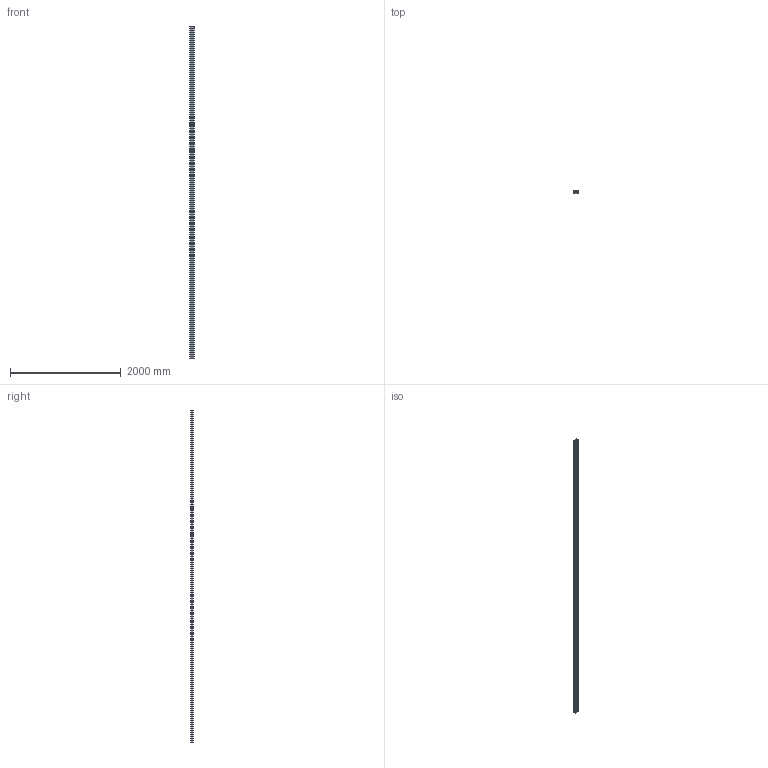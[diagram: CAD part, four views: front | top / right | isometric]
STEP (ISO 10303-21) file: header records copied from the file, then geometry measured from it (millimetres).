
FILE_DESCRIPTION (( 'STEP AP214' ), '1' );
FILE_NAME ('45x90 (Heavy) 100mm.STEP', '2017-08-06T21:32:59', ( 'Ahmed' ), ( '' ), 'SwSTEP 2.0', 'SolidWorks 2016', '' );
FILE_SCHEMA (( 'AUTOMOTIVE_DESIGN' ));
Length unit declared in the file: millimetre
Products named in the file (2): 45x90 (Heavy) 100mm
Bounding box: 90 x 45 x 6000 mm (x, y, z)
Volume: 7687235 mm3; surface area: 5752727.1 mm2
Topology: 1 solids, 1 shells, 368 faces, 1077 edges, 718 vertices
Faces by surface type: plane 280, cylinder 62, bspline 26
Entity records: 13938 total; most frequent: CARTESIAN_POINT 4143, ORIENTED_EDGE 2154, DIRECTION 1837, EDGE_CURVE 1077, VECTOR 901, LINE 901, VERTEX_POINT 718, AXIS2_PLACEMENT_3D 468
